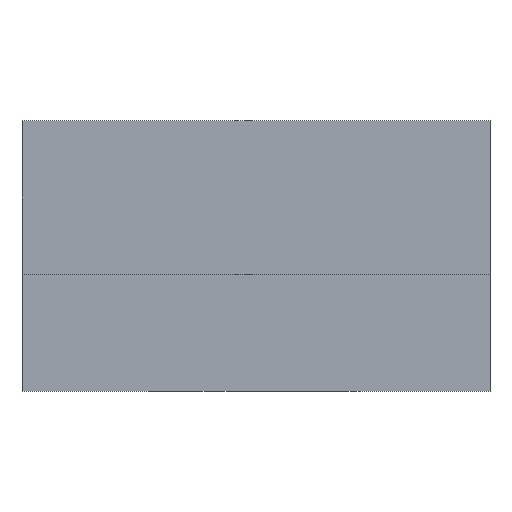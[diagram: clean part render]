
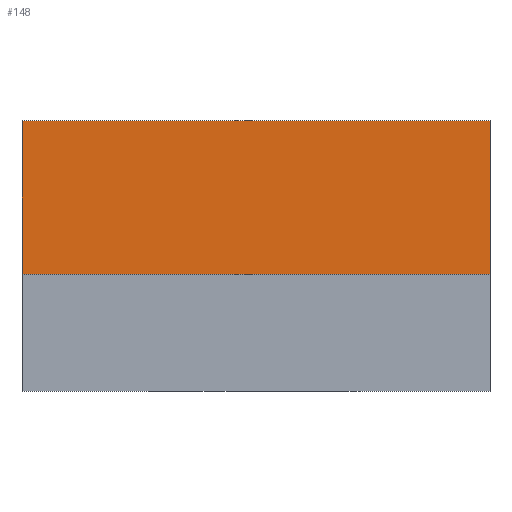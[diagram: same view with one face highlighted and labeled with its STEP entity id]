
A CAD part, front view. The second image highlights one B-rep face of the part: STEP entity #148.
In plain terms, the highlighted planar face has unit normal (0, -1, 0).
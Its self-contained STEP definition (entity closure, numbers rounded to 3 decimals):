
#148=ADVANCED_FACE('',(#258),#260,.T.);
#258=FACE_BOUND('',#259,.T.);
#259=EDGE_LOOP('',(#339,#340,#341,#342));
#260=PLANE('',#261);
#261=AXIS2_PLACEMENT_3D('',#262,#263,#264);
#262=CARTESIAN_POINT('',(-3.2,0.1,1.6));
#263=DIRECTION('',(0.,-1.,0.));
#264=DIRECTION('',(1.,0.,0.));
#339=ORIENTED_EDGE('',*,*,#383,.T.);
#340=ORIENTED_EDGE('',*,*,#374,.T.);
#341=ORIENTED_EDGE('',*,*,#371,.F.);
#342=ORIENTED_EDGE('',*,*,#382,.F.);
#371=EDGE_CURVE('',#414,#416,#417,.T.);
#374=EDGE_CURVE('',#421,#416,#422,.T.);
#382=EDGE_CURVE('',#433,#414,#435,.T.);
#383=EDGE_CURVE('',#433,#421,#436,.T.);
#414=VERTEX_POINT('',#500);
#416=VERTEX_POINT('',#504);
#417=LINE('',#505,#506);
#421=VERTEX_POINT('',#515);
#422=LINE('',#516,#517);
#433=VERTEX_POINT('',#542);
#435=LINE('',#546,#547);
#436=LINE('',#549,#550);
#500=CARTESIAN_POINT('',(-3.2,0.1,3.7));
#504=CARTESIAN_POINT('',(3.2,0.1,3.7));
#505=CARTESIAN_POINT('',(-3.2,0.1,3.7));
#506=VECTOR('',#507,1.);
#507=DIRECTION('',(1.,0.,0.));
#515=CARTESIAN_POINT('',(3.2,0.1,1.6));
#516=CARTESIAN_POINT('',(3.2,0.1,1.6));
#517=VECTOR('',#518,1.);
#518=DIRECTION('',(0.,0.,1.));
#542=CARTESIAN_POINT('',(-3.2,0.1,1.6));
#546=CARTESIAN_POINT('',(-3.2,0.1,1.6));
#547=VECTOR('',#548,1.);
#548=DIRECTION('',(0.,0.,1.));
#549=CARTESIAN_POINT('',(-3.2,0.1,1.6));
#550=VECTOR('',#551,1.);
#551=DIRECTION('',(1.,0.,0.));
